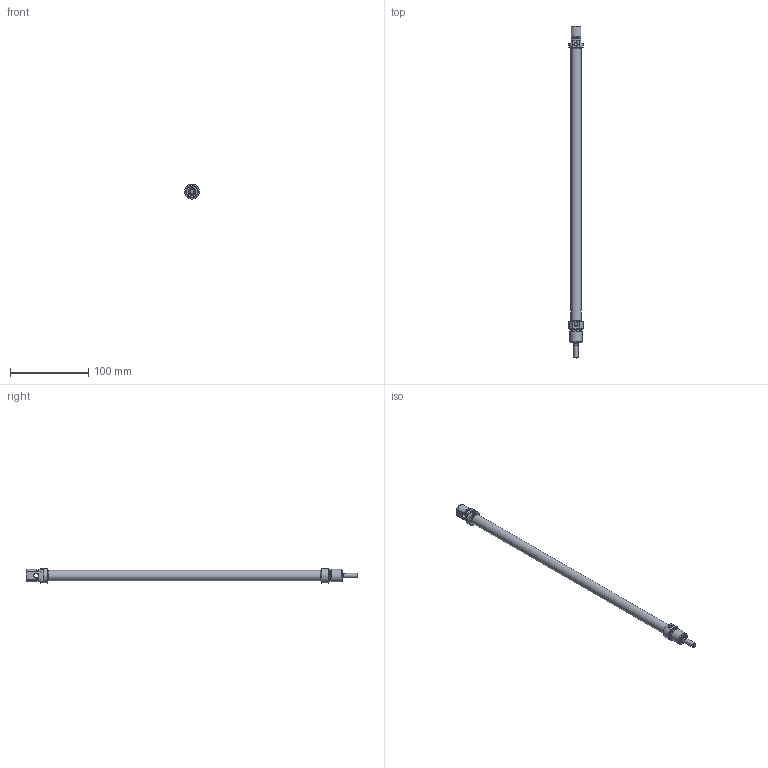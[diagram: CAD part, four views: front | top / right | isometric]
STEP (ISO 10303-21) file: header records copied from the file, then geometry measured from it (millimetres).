
FILE_DESCRIPTION((''),'2;1');
FILE_NAME('T:\Archivio Inventor\- 00 NUOVI STP PER SITO CON STELO CHE SI MUOVE\SERIE O\ODM\ODM012.---.GS.M\ODM012.320.GS.M.stp','2014-02-25T15:24:55',('carlo.corazza'),(''),'Autodesk Inventor 2012','Autodesk Inventor 2012','');
FILE_SCHEMA(('AUTOMOTIVE_DESIGN { 1 0 10303 214 1 1 1 1 }'));
Length unit declared in the file: millimetre
Products named in the file (5): ODM012..GS.M; CORPO-320; STELO-320; TA; TP
Assembly tree (4 placements, depth 2):
  ODM012..GS.M
    CORPO-320
    STELO-320
    TA
    TP
Bounding box: 18.95 x 424 x 18 mm (x, y, z)
Volume: 30234.2 mm3; surface area: 39916.5 mm2
Topology: 4 solids, 4 shells, 98 faces, 200 edges, 127 vertices
Faces by surface type: plane 38, cylinder 28, cone 24, torus 8
Full cylindrical faces by diameter (mm): 4 x1, 4.134 x2, 5.9 x1, 6 x2, 6.5 x1, 7.1 x1, 9 x1, 9.1 x1, 11.1 x1, 11.2 x1, 12 x1, 13.2 x2, 13.27 x1, 13.7 x1, 16 x2
Entity records: 2527 total; most frequent: DIRECTION 440, CARTESIAN_POINT 418, ORIENTED_EDGE 288, AXIS2_PLACEMENT_3D 198, EDGE_LOOP 166, EDGE_CURVE 144, VERTEX_POINT 118, FACE_OUTER_BOUND 98
